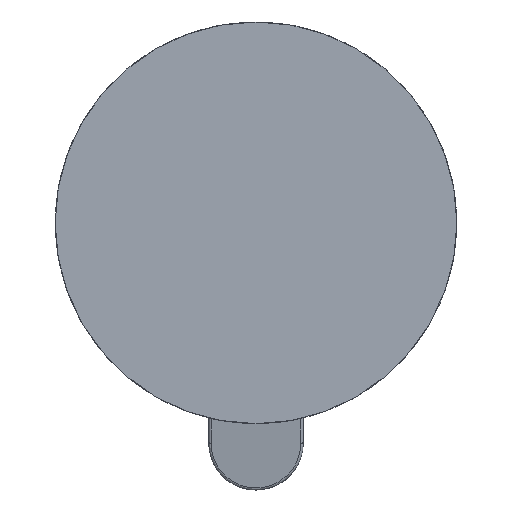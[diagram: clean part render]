
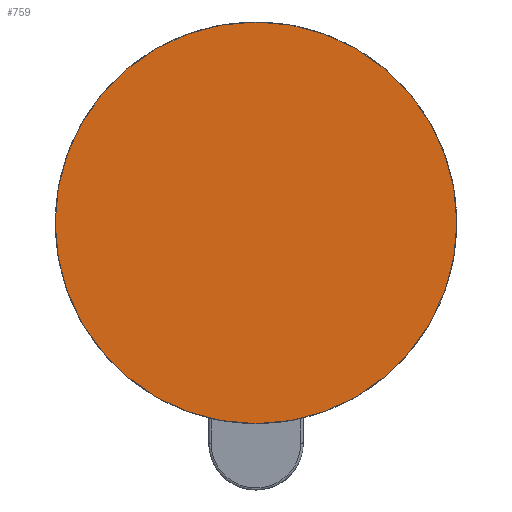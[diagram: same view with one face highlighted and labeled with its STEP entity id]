
A CAD part, front view. The second image highlights one B-rep face of the part: STEP entity #759.
In plain terms, the highlighted planar face has unit normal (0, -1, 0).
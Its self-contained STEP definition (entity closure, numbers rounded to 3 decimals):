
#77 = EDGE_LOOP ( 'NONE', ( #1747, #2750 ) ) ;
#146 = AXIS2_PLACEMENT_3D ( 'NONE', #193, #3465, #3728 ) ;
#193 = CARTESIAN_POINT ( 'NONE',  ( -90., 15., 165.123 ) ) ;
#571 = AXIS2_PLACEMENT_3D ( 'NONE', #3468, #813, #2960 ) ;
#759 = ADVANCED_FACE ( 'NONE', ( #2921 ), #2291, .F. ) ;
#768 = CARTESIAN_POINT ( 'NONE',  ( -90., 15., 250.123 ) ) ;
#813 = DIRECTION ( 'NONE',  ( 0., 1., 0. ) ) ;
#814 = DIRECTION ( 'NONE',  ( 0., 1., 0. ) ) ;
#919 = VERTEX_POINT ( 'NONE', #1650 ) ;
#1360 = EDGE_CURVE ( 'NONE', #919, #1885, #2691, .T. ) ;
#1650 = CARTESIAN_POINT ( 'NONE',  ( -90., 15., 80.123 ) ) ;
#1747 = ORIENTED_EDGE ( 'NONE', *, *, #1360, .F. ) ;
#1885 = VERTEX_POINT ( 'NONE', #768 ) ;
#2040 = EDGE_CURVE ( 'NONE', #1885, #919, #3427, .T. ) ;
#2291 = PLANE ( 'NONE',  #571 ) ;
#2525 = DIRECTION ( 'NONE',  ( 0., 0., -1. ) ) ;
#2691 = CIRCLE ( 'NONE', #3538, 85. ) ;
#2750 = ORIENTED_EDGE ( 'NONE', *, *, #2040, .F. ) ;
#2884 = CARTESIAN_POINT ( 'NONE',  ( -90., 15., 165.123 ) ) ;
#2921 = FACE_OUTER_BOUND ( 'NONE', #77, .T. ) ;
#2960 = DIRECTION ( 'NONE',  ( 0., 0., 1. ) ) ;
#3427 = CIRCLE ( 'NONE', #146, 85. ) ;
#3465 = DIRECTION ( 'NONE',  ( 0., 1., 0. ) ) ;
#3468 = CARTESIAN_POINT ( 'NONE',  ( -90., 15., 165.123 ) ) ;
#3538 = AXIS2_PLACEMENT_3D ( 'NONE', #2884, #814, #2525 ) ;
#3728 = DIRECTION ( 'NONE',  ( 0., 0., -1. ) ) ;
